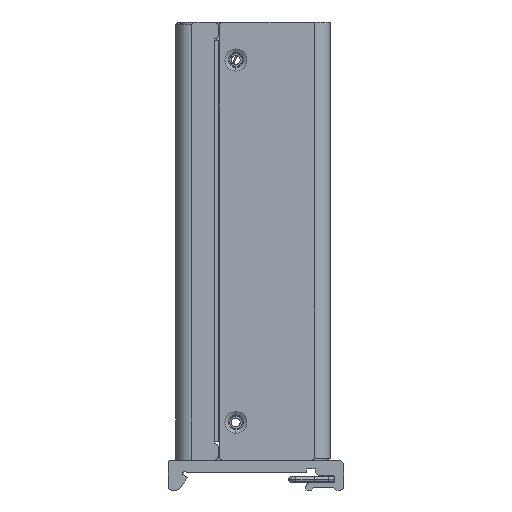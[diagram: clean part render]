
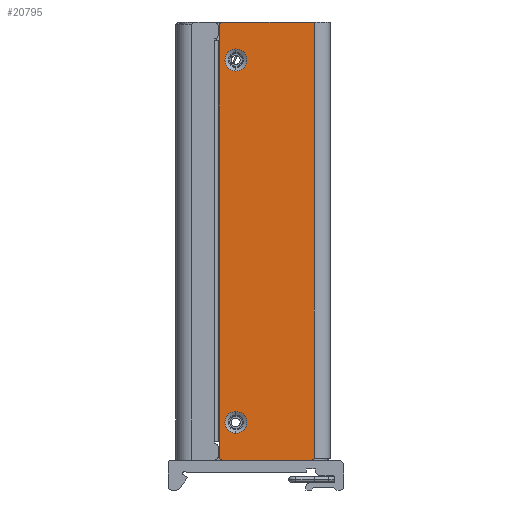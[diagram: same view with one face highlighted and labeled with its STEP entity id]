
A CAD part, left-side view. The second image highlights one B-rep face of the part: STEP entity #20795.
In plain terms, the highlighted planar face has unit normal (-1, 0, 0).
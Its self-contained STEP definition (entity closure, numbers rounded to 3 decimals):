
#17721=CARTESIAN_POINT('',(-99.5,26.8,-51.5));
#17722=DIRECTION('',(1.,0.,0.));
#17723=DIRECTION('',(0.,0.,1.));
#17724=AXIS2_PLACEMENT_3D('',#17721,#17722,#17723);
#17729=CARTESIAN_POINT('',(-99.5,26.8,-51.5));
#17730=DIRECTION('',(1.,0.,0.));
#17731=DIRECTION('',(0.,0.,-1.));
#17732=AXIS2_PLACEMENT_3D('',#17729,#17730,#17731);
#17737=CARTESIAN_POINT('',(-99.5,26.8,51.5));
#17738=DIRECTION('',(1.,0.,0.));
#17739=DIRECTION('',(0.,0.,1.));
#17740=AXIS2_PLACEMENT_3D('',#17737,#17738,#17739);
#17745=CARTESIAN_POINT('',(-99.5,26.8,51.5));
#17746=DIRECTION('',(1.,0.,0.));
#17747=DIRECTION('',(0.,0.,-1.));
#17748=AXIS2_PLACEMENT_3D('',#17745,#17746,#17747);
#17753=CARTESIAN_POINT('',(-99.5,5.366,-61.2));
#17754=DIRECTION('',(-1.,0.,0.));
#17755=DIRECTION('',(0.,0.,-1.));
#17756=AXIS2_PLACEMENT_3D('',#17753,#17754,#17755);
#17761=DIRECTION('',(0.,-1.,0.));
#17762=VECTOR('',#17761,25.234);
#17763=CARTESIAN_POINT('',(-99.5,30.6,-62.2));
#17764=LINE('',#17763,#17762);
#17768=CARTESIAN_POINT('',(-99.5,30.6,-61.2));
#17769=DIRECTION('',(-1.,0.,0.));
#17770=DIRECTION('',(0.,1.,0.));
#17771=AXIS2_PLACEMENT_3D('',#17768,#17769,#17770);
#17776=DIRECTION('',(0.,0.,-1.));
#17777=VECTOR('',#17776,122.4);
#17778=CARTESIAN_POINT('',(-99.5,31.6,61.2));
#17779=LINE('',#17778,#17777);
#17783=CARTESIAN_POINT('',(-99.5,30.6,61.2));
#17784=DIRECTION('',(-1.,0.,0.));
#17785=DIRECTION('',(0.,0.,1.));
#17786=AXIS2_PLACEMENT_3D('',#17783,#17784,#17785);
#17791=DIRECTION('',(0.,1.,0.));
#17792=VECTOR('',#17791,26.1);
#17793=CARTESIAN_POINT('',(-99.5,4.5,62.2));
#17794=LINE('',#17793,#17792);
#18008=DIRECTION('',(0.,0.,1.));
#18009=VECTOR('',#18008,123.9);
#18010=CARTESIAN_POINT('',(-99.5,4.5,-61.7));
#18011=LINE('',#18010,#18009);
#18959=CARTESIAN_POINT('',(-99.5,4.5,62.2));
#18961=VERTEX_POINT('',#18959);
#19115=CARTESIAN_POINT('',(-99.5,26.8,-48.364));
#19116=CARTESIAN_POINT('',(-99.5,26.8,-54.636));
#19117=VERTEX_POINT('',#19115);
#19118=VERTEX_POINT('',#19116);
#19123=CARTESIAN_POINT('',(-99.5,26.8,54.636));
#19124=CARTESIAN_POINT('',(-99.5,26.8,48.364));
#19125=VERTEX_POINT('',#19123);
#19126=VERTEX_POINT('',#19124);
#19199=CARTESIAN_POINT('',(-99.5,5.366,-62.2));
#19200=CARTESIAN_POINT('',(-99.5,4.5,-61.7));
#19201=VERTEX_POINT('',#19199);
#19202=VERTEX_POINT('',#19200);
#19207=CARTESIAN_POINT('',(-99.5,31.6,-61.2));
#19208=CARTESIAN_POINT('',(-99.5,30.6,-62.2));
#19209=VERTEX_POINT('',#19207);
#19210=VERTEX_POINT('',#19208);
#19215=CARTESIAN_POINT('',(-99.5,30.6,62.2));
#19216=CARTESIAN_POINT('',(-99.5,31.6,61.2));
#19217=VERTEX_POINT('',#19215);
#19218=VERTEX_POINT('',#19216);
#20763=CARTESIAN_POINT('',(-99.5,0.,62.2));
#20764=DIRECTION('',(-1.,0.,0.));
#20765=DIRECTION('',(0.,0.,1.));
#20766=AXIS2_PLACEMENT_3D('',#20763,#20764,#20765);
#20767=PLANE('',#20766);
#20768=ORIENTED_EDGE('',*,*,#20753,.F.);
#20770=ORIENTED_EDGE('',*,*,#20769,.F.);
#20772=ORIENTED_EDGE('',*,*,#20771,.F.);
#20774=ORIENTED_EDGE('',*,*,#20773,.F.);
#20776=ORIENTED_EDGE('',*,*,#20775,.F.);
#20778=ORIENTED_EDGE('',*,*,#20777,.F.);
#20780=ORIENTED_EDGE('',*,*,#20779,.F.);
#20781=EDGE_LOOP('',(#20768,#20770,#20772,#20774,#20776,#20778,#20780));
#20782=FACE_OUTER_BOUND('',#20781,.F.);
#20784=ORIENTED_EDGE('',*,*,#20783,.F.);
#20786=ORIENTED_EDGE('',*,*,#20785,.F.);
#20787=EDGE_LOOP('',(#20784,#20786));
#20788=FACE_BOUND('',#20787,.F.);
#20790=ORIENTED_EDGE('',*,*,#20789,.F.);
#20792=ORIENTED_EDGE('',*,*,#20791,.F.);
#20793=EDGE_LOOP('',(#20790,#20792));
#20794=FACE_BOUND('',#20793,.F.);
#20795=ADVANCED_FACE('',(#20782,#20788,#20794),#20767,.T.);
#17725=CIRCLE('',#17724,3.136);
#17733=CIRCLE('',#17732,3.136);
#17741=CIRCLE('',#17740,3.136);
#17749=CIRCLE('',#17748,3.136);
#17757=CIRCLE('',#17756,1.);
#17772=CIRCLE('',#17771,1.);
#17787=CIRCLE('',#17786,1.);
#20753=EDGE_CURVE('',#19201,#19202,#17757,.T.);
#20769=EDGE_CURVE('',#19210,#19201,#17764,.T.);
#20771=EDGE_CURVE('',#19209,#19210,#17772,.T.);
#20773=EDGE_CURVE('',#19218,#19209,#17779,.T.);
#20775=EDGE_CURVE('',#19217,#19218,#17787,.T.);
#20777=EDGE_CURVE('',#18961,#19217,#17794,.T.);
#20779=EDGE_CURVE('',#19202,#18961,#18011,.T.);
#20783=EDGE_CURVE('',#19125,#19126,#17741,.T.);
#20785=EDGE_CURVE('',#19126,#19125,#17749,.T.);
#20789=EDGE_CURVE('',#19117,#19118,#17725,.T.);
#20791=EDGE_CURVE('',#19118,#19117,#17733,.T.);
